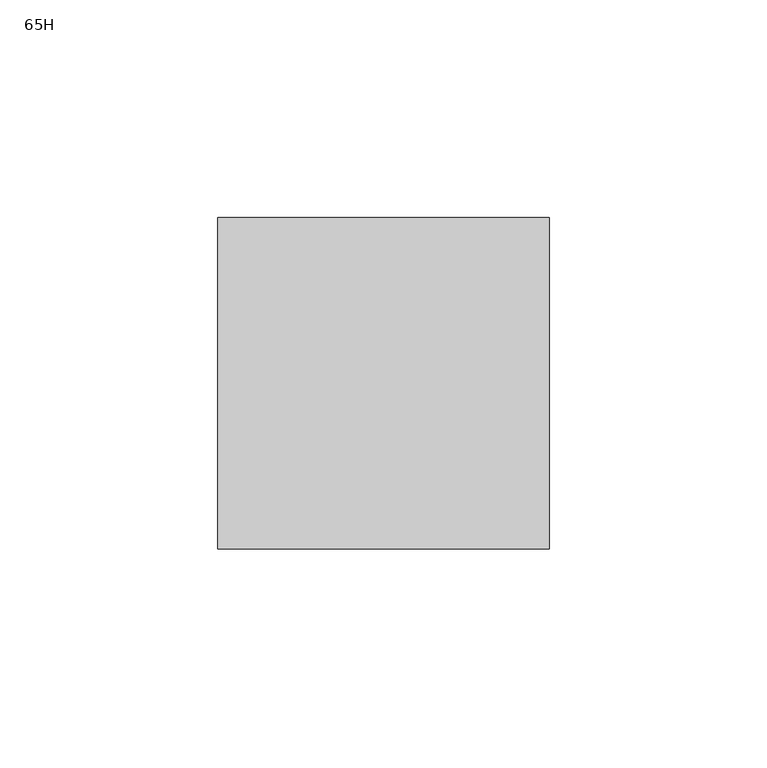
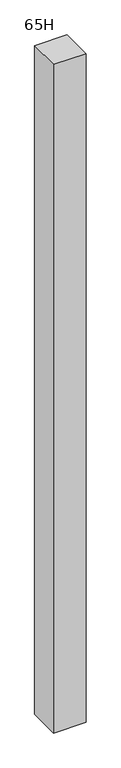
"""IFC4 building model written with IfcOpenShell, lengths in millimetres: furniture geometry, Steelcase - Montage - Junction - I - Same-Height : 65H."""

import ifcopenshell
import ifcopenshell.guid

model = None  # the IFC model being written
_history = None  # IfcOwnerHistory: only IFC2X3 demands one
_inside = {}  # id of a spatial element -> (the spatial element, [elements in it])
_under = {}  # id of a project, library or spatial element -> (it, [spatial elements below it])
_declared = {}  # id of a project -> (the project, [libraries it declares])
_typed = {}  # id of a type object -> (the type object, [elements of that type])
_made_of = {}  # id of a material, layer set ... -> (it, [elements and type objects made of it])


def new_model(schema):
    """Start an empty IFC model of exactly this schema.

    Asked for "IFC4X3", IfcOpenShell would pick the latest addendum, in which some entities
    have other attributes; the version numbers below select the first issue.
    IFC2X3 requires an IfcOwnerHistory on every rooted entity: one is made here for all.
    """
    global model, _history
    if schema == "IFC4X3":
        model = ifcopenshell.file(schema_version=(4, 3, 0, 0))
    else:
        model = ifcopenshell.file(schema=schema)
    _inside.clear()
    _under.clear()
    _declared.clear()
    _typed.clear()
    _made_of.clear()
    _history = None
    if model.schema == "IFC2X3":
        org = make("IfcOrganization", Name="unknown")
        user = make(
            "IfcPersonAndOrganization",
            ThePerson=make("IfcPerson", FamilyName="unknown"),
            TheOrganization=org,
        )
        app = make(
            "IfcApplication",
            ApplicationDeveloper=org,
            Version="unknown",
            ApplicationFullName="unknown",
            ApplicationIdentifier="unknown",
        )
        _history = make(
            "IfcOwnerHistory",
            OwningUser=user,
            OwningApplication=app,
            ChangeAction="ADDED",
            CreationDate=0,
        )
    return model


def make(cls, **values):
    """One entity of the class cls with the attributes given. An attribute that is None is left unset."""
    return model.create_entity(
        cls, **{name: value for name, value in values.items() if value is not None}
    )


def rooted(cls, **values):
    """An entity with a GlobalId (a new one), such as an element, a storey or a relation."""
    return make(cls, GlobalId=ifcopenshell.guid.new(), OwnerHistory=_history, **values)


def si_unit(unit_type, name, prefix=None):
    """IfcSIUnit, for example si_unit("LENGTHUNIT", "METRE", prefix="MILLI")."""
    return make("IfcSIUnit", UnitType=unit_type, Prefix=prefix, Name=name)


def assignment(units):
    """IfcUnitAssignment: the units of a project."""
    return None if units is None else make("IfcUnitAssignment", Units=units)


def point(xyz):
    """IfcCartesianPoint."""
    return None if xyz is None else make("IfcCartesianPoint", Coordinates=xyz)


def direction(xyz):
    """IfcDirection."""
    return None if xyz is None else make("IfcDirection", DirectionRatios=xyz)


def frame(location, z_axis=None, x_axis=None):
    """IfcAxis2Placement3D, a coordinate frame: its origin and axes. An axis left out is left unset."""
    return make(
        "IfcAxis2Placement3D",
        Location=point(location),
        Axis=direction(z_axis),
        RefDirection=direction(x_axis),
    )


def origin():
    """The frame at (0, 0, 0) with its axes left unset."""
    return frame((0.0, 0.0, 0.0))


def place(relative_to, where):
    """IfcLocalPlacement: puts the frame where relative to a parent placement (None: the world)."""
    return make(
        "IfcLocalPlacement", PlacementRelTo=relative_to, RelativePlacement=where
    )


def context(
    kind, dimensions, precision=None, world=None, true_north=None, identifier=None
):
    """IfcGeometricRepresentationContext, for example the 3D "Model" context."""
    return make(
        "IfcGeometricRepresentationContext",
        ContextIdentifier=identifier,
        ContextType=kind,
        CoordinateSpaceDimension=dimensions,
        Precision=precision,
        WorldCoordinateSystem=world,
        TrueNorth=true_north,
    )


def project(units=None, contexts=None):
    """IfcProject with its units and contexts."""
    return rooted(
        "IfcProject",
        Name="project",
        RepresentationContexts=contexts,
        UnitsInContext=assignment(units),
    )


def spatial(cls, under=None, at=None, **own):
    """A site, building, storey or space (cls), placed at a placement, below another one or the project."""
    s = rooted(cls, ObjectPlacement=at, **own)
    if under is not None:
        _under.setdefault(under.id(), (under, []))[1].append(s)
    return s


def polyline(points):
    """IfcPolyline through the points."""
    return make("IfcPolyline", Points=[point(p) for p in points])


def outline(outer, holes=None, kind="AREA"):
    """IfcArbitraryClosedProfileDef: a profile drawn as a closed curve; with holes, ...WithVoids."""
    if holes is None:
        return make("IfcArbitraryClosedProfileDef", ProfileType=kind, OuterCurve=outer)
    return make(
        "IfcArbitraryProfileDefWithVoids",
        ProfileType=kind,
        OuterCurve=outer,
        InnerCurves=holes,
    )


def extrude(swept, where, along, depth):
    """IfcExtrudedAreaSolid: the profile swept, set in the frame where, extruded along a direction by depth."""
    return make(
        "IfcExtrudedAreaSolid",
        SweptArea=swept,
        Position=where,
        ExtrudedDirection=direction(along),
        Depth=depth,
    )


def shape(context_of_items, identifier, shape_type, items):
    """IfcShapeRepresentation: the items that make up one representation, for example the "Body"."""
    return make(
        "IfcShapeRepresentation",
        ContextOfItems=context_of_items,
        RepresentationIdentifier=identifier,
        RepresentationType=shape_type,
        Items=items,
    )


def source(mapping_origin, context_of_items, identifier, shape_type, items):
    """IfcRepresentationMap: a shape defined once, which mapped items show again and again."""
    return make(
        "IfcRepresentationMap",
        MappingOrigin=mapping_origin,
        MappedRepresentation=shape(context_of_items, identifier, shape_type, items),
    )


def transform(
    local_origin,
    x_axis=None,
    y_axis=None,
    z_axis=None,
    scale=None,
    scale2=None,
    scale3=None,
    uniform=True,
):
    """IfcCartesianTransformationOperator3D, or its non-uniform kind. x_axis, y_axis, z_axis: its Axis1, 2, 3."""
    if uniform:
        return make(
            "IfcCartesianTransformationOperator3D",
            Axis1=direction(x_axis),
            Axis2=direction(y_axis),
            LocalOrigin=point(local_origin),
            Scale=scale,
            Axis3=direction(z_axis),
        )
    return make(
        "IfcCartesianTransformationOperator3DnonUniform",
        Axis1=direction(x_axis),
        Axis2=direction(y_axis),
        LocalOrigin=point(local_origin),
        Scale=scale,
        Axis3=direction(z_axis),
        Scale2=scale2,
        Scale3=scale3,
    )


def mapped(mapping_source, mapping_target):
    """IfcMappedItem: shows the shape of a source again, moved by a transform."""
    return make(
        "IfcMappedItem", MappingSource=mapping_source, MappingTarget=mapping_target
    )


def made_of(thing, what):
    """Note that an element or type object is made of a material, layer set ...; save() writes the relation."""
    if what is not None:
        _made_of.setdefault(what.id(), (what, []))[1].append(thing)
    return thing


def element(
    cls,
    number,
    at=None,
    inside=None,
    cuts=None,
    type_object=None,
    material=None,
    context=None,
    identifier="Body",
    shape_type=None,
    held_by="IfcProductDefinitionShape",
    body=None,
    shapes=None,
    **own,
):
    """One element of the class cls, such as IfcWall. Its Tag is "e" and its number.

    at: its placement. inside: the storey or other place that contains it. cuts: it is an
    opening in that element (IfcRelVoidsElement). A single representation is given by context,
    identifier, shape_type and body (its items); several are given by shapes. held_by: the class
    of the entity that holds the representations. save() writes the other relations.
    """
    e = rooted(cls, Tag="e%d" % number, ObjectPlacement=at, **own)
    if body is not None:
        shapes = [shape(context, identifier, shape_type, body)]
    if shapes is not None:
        e.Representation = make(held_by, Representations=shapes)
    if inside is not None:
        _inside.setdefault(inside.id(), (inside, []))[1].append(e)
    if cuts is not None:
        rooted(
            "IfcRelVoidsElement", RelatingBuildingElement=cuts, RelatedOpeningElement=e
        )
    if type_object is not None:
        _typed.setdefault(type_object.id(), (type_object, []))[1].append(e)
    return made_of(e, material)


def aggregate(whole, parts):
    """IfcRelAggregates: a whole, such as a stair, and the parts it consists of."""
    return rooted("IfcRelAggregates", RelatingObject=whole, RelatedObjects=parts)


def save(model, path):
    """Write the relations noted so far, then the file.

    IfcRelAggregates (storeys below a building ...), IfcRelContainedInSpatialStructure (elements
    in a storey), IfcRelDefinesByType, IfcRelAssociatesMaterial and IfcRelDeclares: one each for
    every whole, place, type object, material and project.
    """
    for whole, parts in _under.values():
        aggregate(whole, parts)
    for where, things in _inside.values():
        rooted(
            "IfcRelContainedInSpatialStructure",
            RelatedElements=things,
            RelatingStructure=where,
        )
    for kind, things in _typed.values():
        rooted("IfcRelDefinesByType", RelatedObjects=things, RelatingType=kind)
    for what, things in _made_of.values():
        rooted("IfcRelAssociatesMaterial", RelatedObjects=things, RelatingMaterial=what)
    for by, libraries in _declared.values():
        rooted("IfcRelDeclares", RelatingContext=by, RelatedDefinitions=libraries)
    model.write(path)


def furniture_65h_424c1f49(model_context):
    return source(origin(), model_context, "Body", "SweptSolid", [
        extrude(outline(polyline([(533.4, 38.1000015), (533.4, -38.1000015), (457.2, -38.1000015), (457.2, 38.1000015), (533.4, 38.1000015)])), frame((0.0, 0.0, 3.9624), z_axis=(0.0, 0.0, 1.0), x_axis=(1.0, 0.0, 0.0)), (0.0, 0.0, 1.0), 1656.5626),
    ])


if __name__ == "__main__":
    model = new_model("IFC4")
    model_context = context("Model", 3, world=origin())
    ifc_project = project(units=[si_unit("LENGTHUNIT", "METRE", prefix="MILLI")], contexts=[model_context])
    site = spatial("IfcSite", under=ifc_project)
    building = spatial("IfcBuilding", under=site)
    placement = place(None, origin())
    furniture_65h_shape = furniture_65h_424c1f49(model_context)
    element("IfcFurniture", 1, ObjectType="Steelcase - Montage - Junction - I - Same-Height : 65H", at=placement, inside=building, context=model_context, shape_type="MappedRepresentation", body=[
        mapped(furniture_65h_shape, transform((0.0, 0.0, 0.0), x_axis=(1.0, 0.0, 0.0), y_axis=(0.0, 1.0, 0.0), z_axis=(0.0, 0.0, 1.0))),
    ])
    save(model, "model.ifc")
